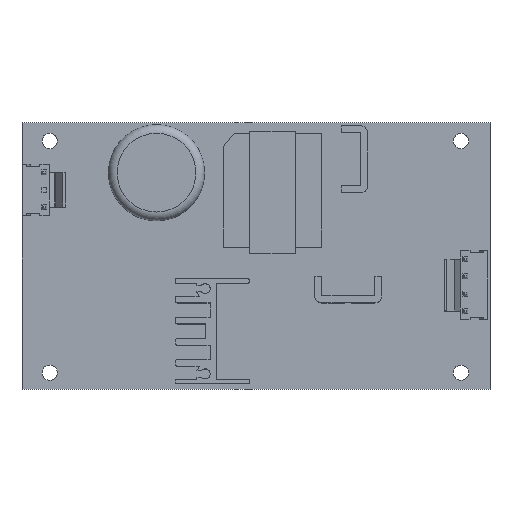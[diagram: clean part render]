
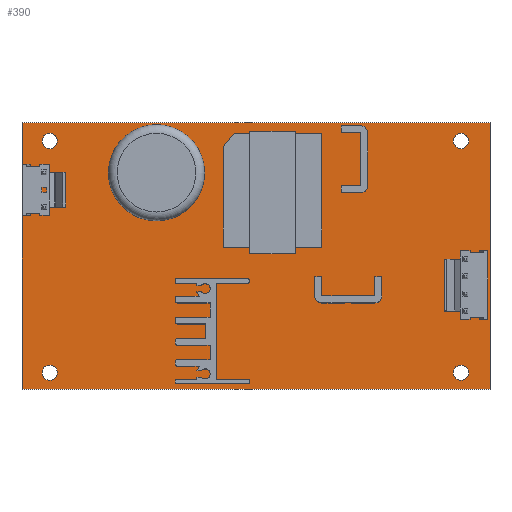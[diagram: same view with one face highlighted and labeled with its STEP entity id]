
A CAD part, top view. The second image highlights one B-rep face of the part: STEP entity #390.
In plain terms, the highlighted planar face has unit normal (0, 0, 1).
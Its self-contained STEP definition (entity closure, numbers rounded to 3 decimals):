
#112=CARTESIAN_POINT('',(84.136,43.273,1.6));
#113=VERTEX_POINT('',#112);
#114=CARTESIAN_POINT('',(82.386,43.273,1.6));
#115=DIRECTION('',(0.0,0.0,-1.0));
#116=DIRECTION('',(-1.0,0.0,0.0));
#117=AXIS2_PLACEMENT_3D('',#114,#115,#116);
#118=CIRCLE('',#117,1.75);
#119=EDGE_CURVE('',#113,#113,#118,.T.);
#140=CARTESIAN_POINT('',(84.136,-9.727,1.6));
#141=VERTEX_POINT('',#140);
#142=CARTESIAN_POINT('',(82.386,-9.727,1.6));
#143=DIRECTION('',(0.0,0.0,-1.0));
#144=DIRECTION('',(-1.0,0.0,0.0));
#145=AXIS2_PLACEMENT_3D('',#142,#143,#144);
#146=CIRCLE('',#145,1.75);
#147=EDGE_CURVE('',#141,#141,#146,.T.);
#168=CARTESIAN_POINT('',(-9.864,43.273,1.6));
#169=VERTEX_POINT('',#168);
#170=CARTESIAN_POINT('',(-11.614,43.273,1.6));
#171=DIRECTION('',(0.0,0.0,-1.0));
#172=DIRECTION('',(-1.0,0.0,0.0));
#173=AXIS2_PLACEMENT_3D('',#170,#171,#172);
#174=CIRCLE('',#173,1.75);
#175=EDGE_CURVE('',#169,#169,#174,.T.);
#196=CARTESIAN_POINT('',(-9.864,-9.727,1.6));
#197=VERTEX_POINT('',#196);
#198=CARTESIAN_POINT('',(-11.614,-9.727,1.6));
#199=DIRECTION('',(0.0,0.0,-1.0));
#200=DIRECTION('',(-1.0,0.0,0.0));
#201=AXIS2_PLACEMENT_3D('',#198,#199,#200);
#202=CIRCLE('',#201,1.75);
#203=EDGE_CURVE('',#197,#197,#202,.T.);
#224=CARTESIAN_POINT('',(-17.964,-13.537,1.6));
#225=VERTEX_POINT('',#224);
#226=CARTESIAN_POINT('',(-17.964,47.463,1.6));
#227=VERTEX_POINT('',#226);
#228=CARTESIAN_POINT('',(-17.964,-13.537,1.6));
#229=DIRECTION('',(0.0,1.0,0.0));
#230=VECTOR('',#229,61.);
#231=LINE('',#228,#230);
#232=EDGE_CURVE('',#225,#227,#231,.T.);
#264=CARTESIAN_POINT('',(89.036,47.463,1.6));
#265=VERTEX_POINT('',#264);
#266=CARTESIAN_POINT('',(-17.964,47.463,1.6));
#267=DIRECTION('',(1.0,0.0,0.0));
#268=VECTOR('',#267,107.);
#269=LINE('',#266,#268);
#270=EDGE_CURVE('',#227,#265,#269,.T.);
#295=CARTESIAN_POINT('',(89.036,-13.537,1.6));
#296=VERTEX_POINT('',#295);
#297=CARTESIAN_POINT('',(89.036,47.463,1.6));
#298=DIRECTION('',(0.0,-1.0,0.0));
#299=VECTOR('',#298,61.);
#300=LINE('',#297,#299);
#301=EDGE_CURVE('',#265,#296,#300,.T.);
#326=CARTESIAN_POINT('',(89.036,-13.537,1.6));
#327=DIRECTION('',(-1.0,0.0,0.0));
#328=VECTOR('',#327,107.);
#329=LINE('',#326,#328);
#330=EDGE_CURVE('',#296,#225,#329,.T.);
#367=CARTESIAN_POINT('',(35.536,16.963,1.6));
#368=DIRECTION('',(0.0,0.0,1.0));
#369=DIRECTION('',(1.0,0.0,0.0));
#370=AXIS2_PLACEMENT_3D('',#367,#368,#369);
#371=PLANE('',#370);
#372=ORIENTED_EDGE('',*,*,#232,.F.);
#373=ORIENTED_EDGE('',*,*,#330,.F.);
#374=ORIENTED_EDGE('',*,*,#301,.F.);
#375=ORIENTED_EDGE('',*,*,#270,.F.);
#376=EDGE_LOOP('',(#372,#373,#374,#375));
#377=FACE_OUTER_BOUND('',#376,.T.);
#378=ORIENTED_EDGE('',*,*,#119,.T.);
#379=EDGE_LOOP('',(#378));
#380=FACE_BOUND('',#379,.T.);
#381=ORIENTED_EDGE('',*,*,#147,.T.);
#382=EDGE_LOOP('',(#381));
#383=FACE_BOUND('',#382,.T.);
#384=ORIENTED_EDGE('',*,*,#175,.T.);
#385=EDGE_LOOP('',(#384));
#386=FACE_BOUND('',#385,.T.);
#387=ORIENTED_EDGE('',*,*,#203,.T.);
#388=EDGE_LOOP('',(#387));
#389=FACE_BOUND('',#388,.T.);
#390=ADVANCED_FACE('',(#377,#380,#383,#386,#389),#371,.T.);
